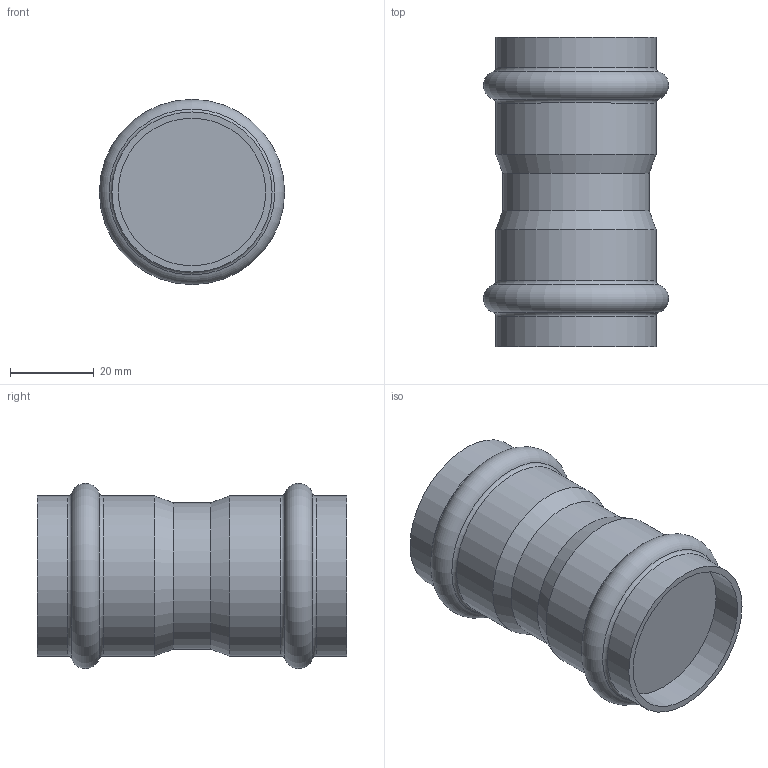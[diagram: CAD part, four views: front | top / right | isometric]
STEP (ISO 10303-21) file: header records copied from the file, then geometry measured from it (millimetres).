
FILE_DESCRIPTION(('STEP AP203'), '1');
FILE_NAME('VTi.903.I.003535', '', ('UNSPECIFIED'), ('UNSPECIFIED'), 'C3D Converter', 'C3D Toolkit', '');
FILE_SCHEMA(('CONFIG_CONTROL_DESIGN'));
Length unit declared in the file: millimetre
Bounding box: 44.29 x 74 x 44.29 mm (x, y, z)
Volume: 72571 mm3; surface area: 13612.6 mm2
Topology: 1 solids, 1 shells, 19 faces, 33 edges, 18 vertices
Faces by surface type: cylinder 7, torus 6, plane 4, cone 2
Full cylindrical faces by diameter (mm): 35 x1, 35.3 x2, 38.3 x4
Entity records: 414 total; most frequent: DIRECTION 76, CARTESIAN_POINT 56, AXIS2_PLACEMENT_3D 38, EDGE_LOOP 36, ORIENTED_EDGE 36, FACE_OUTER_BOUND 30, ADVANCED_FACE 19, EDGE_CURVE 18
